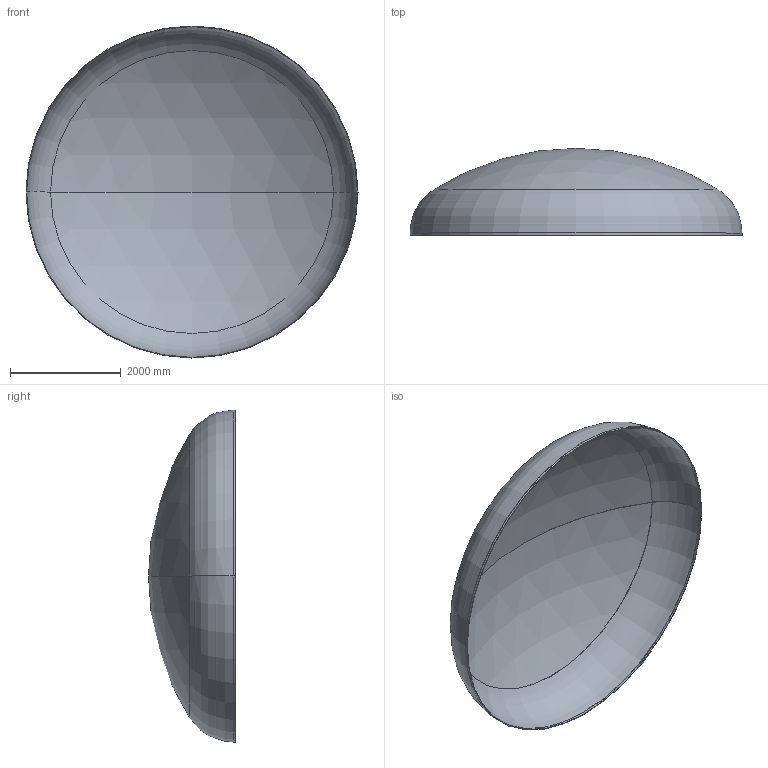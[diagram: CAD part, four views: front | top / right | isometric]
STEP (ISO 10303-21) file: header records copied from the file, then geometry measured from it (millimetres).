
FILE_DESCRIPTION (( 'STEP AP203' ), '1' );
FILE_NAME ('DIN 28013 Korbbogenform_-_Boden DIN 28013 - 6000 x 40 - I - s=11.step', '2016-07-04T10:35:42', ( '' ), ( '' ), 'SwSTEP 2.0', 'SolidWorks 2013', '' );
FILE_SCHEMA (( 'CONFIG_CONTROL_DESIGN' ));
Length unit declared in the file: millimetre
Products named in the file (1): DIN 28013 Korbbogenform_-_Boden DIN 28013 - 6000 x 40 - I - s=11
Bounding box: 6000 x 1571.44 x 6000 mm (x, y, z)
Volume: 438121981.4 mm3; surface area: 79865727.6 mm2
Topology: 1 solids, 1 shells, 13 faces, 24 edges, 14 vertices
Faces by surface type: torus 4, cylinder 4, sphere 4, plane 1
Entity records: 407 total; most frequent: DIRECTION 72, CARTESIAN_POINT 52, ORIENTED_EDGE 48, AXIS2_PLACEMENT_3D 34, EDGE_CURVE 24, CIRCLE 20, EDGE_LOOP 14, VERTEX_POINT 14
